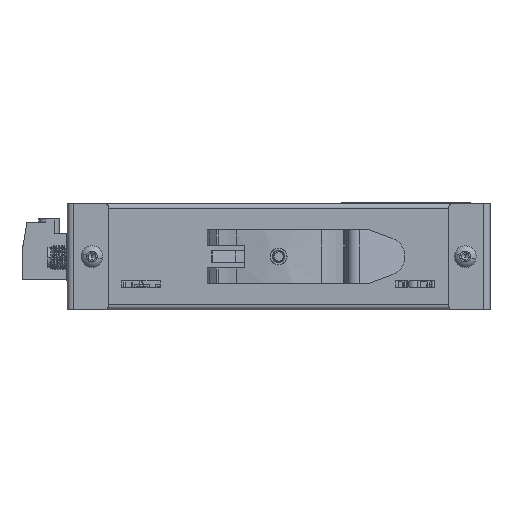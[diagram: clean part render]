
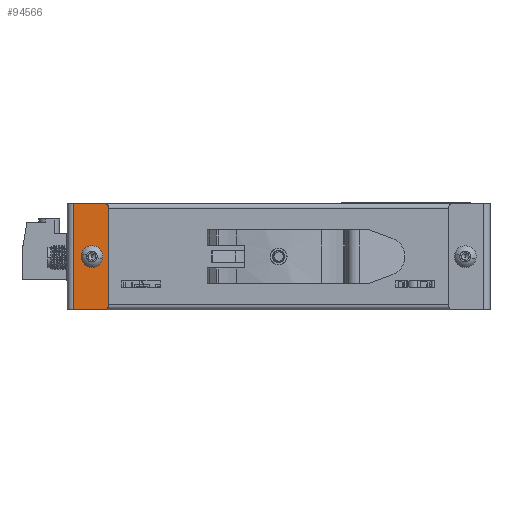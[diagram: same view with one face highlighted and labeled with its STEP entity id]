
A CAD part, left-side view. The second image highlights one B-rep face of the part: STEP entity #94566.
In plain terms, the highlighted planar face has unit normal (-1, 0, 0).
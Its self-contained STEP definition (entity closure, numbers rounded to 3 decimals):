
#1511 = CARTESIAN_POINT ( 'NONE',  ( -47.5, 53.9, 14. ) ) ;
#1550 = DIRECTION ( 'NONE',  ( -1., 0., 0. ) ) ;
#11399 = CARTESIAN_POINT ( 'NONE',  ( -47.5, 49., 1.75 ) ) ;
#11834 = VERTEX_POINT ( 'NONE', #11399 ) ;
#13542 = DIRECTION ( 'NONE',  ( -1., 0., 0. ) ) ;
#15090 = VECTOR ( 'NONE', #56835, 1000. ) ;
#16069 = EDGE_CURVE ( 'NONE', #59664, #119819, #83416, .T. ) ;
#17227 = AXIS2_PLACEMENT_3D ( 'NONE', #98072, #1550, #76534 ) ;
#21399 = CARTESIAN_POINT ( 'NONE',  ( -47.5, 49., -1.75 ) ) ;
#23000 = ORIENTED_EDGE ( 'NONE', *, *, #16069, .T. ) ;
#23485 = LINE ( 'NONE', #77036, #15090 ) ;
#25428 = EDGE_LOOP ( 'NONE', ( #118656, #23000, #77053, #66970, #80749, #62335 ) ) ;
#26117 = DIRECTION ( 'NONE',  ( 0., 0., -1. ) ) ;
#29550 = AXIS2_PLACEMENT_3D ( 'NONE', #86464, #106596, #107528 ) ;
#30083 = VECTOR ( 'NONE', #111758, 1000. ) ;
#32874 = VERTEX_POINT ( 'NONE', #76581 ) ;
#36369 = FACE_BOUND ( 'NONE', #71210, .T. ) ;
#38183 = EDGE_CURVE ( 'NONE', #65464, #96093, #23485, .T. ) ;
#38570 = ORIENTED_EDGE ( 'NONE', *, *, #76656, .F. ) ;
#42850 = CIRCLE ( 'NONE', #137954, 1. ) ;
#42893 = EDGE_CURVE ( 'NONE', #78132, #96093, #42850, .T. ) ;
#44946 = VECTOR ( 'NONE', #120260, 1000. ) ;
#50034 = LINE ( 'NONE', #130061, #44946 ) ;
#55298 = VERTEX_POINT ( 'NONE', #21399 ) ;
#56835 = DIRECTION ( 'NONE',  ( 0., -1., 0. ) ) ;
#58158 = CIRCLE ( 'NONE', #17227, 1.75 ) ;
#59329 = CARTESIAN_POINT ( 'NONE',  ( -47.5, 45.7, 13. ) ) ;
#59664 = VERTEX_POINT ( 'NONE', #87792 ) ;
#62335 = ORIENTED_EDGE ( 'NONE', *, *, #111003, .T. ) ;
#63228 = EDGE_CURVE ( 'NONE', #11834, #55298, #84859, .T. ) ;
#65464 = VERTEX_POINT ( 'NONE', #1511 ) ;
#66970 = ORIENTED_EDGE ( 'NONE', *, *, #42893, .T. ) ;
#71210 = EDGE_LOOP ( 'NONE', ( #90445, #38570 ) ) ;
#72820 = DIRECTION ( 'NONE',  ( 0., 1., 0. ) ) ;
#76534 = DIRECTION ( 'NONE',  ( 0., 0., 1. ) ) ;
#76581 = CARTESIAN_POINT ( 'NONE',  ( -47.5, 53.9, -14. ) ) ;
#76656 = EDGE_CURVE ( 'NONE', #55298, #11834, #58158, .T. ) ;
#77036 = CARTESIAN_POINT ( 'NONE',  ( -47.5, 54.7, 14. ) ) ;
#77053 = ORIENTED_EDGE ( 'NONE', *, *, #100232, .F. ) ;
#78132 = VERTEX_POINT ( 'NONE', #93398 ) ;
#80749 = ORIENTED_EDGE ( 'NONE', *, *, #38183, .F. ) ;
#83416 = CIRCLE ( 'NONE', #111742, 1. ) ;
#84859 = CIRCLE ( 'NONE', #29550, 1.75 ) ;
#86464 = CARTESIAN_POINT ( 'NONE',  ( -47.5, 49., 0. ) ) ;
#87792 = CARTESIAN_POINT ( 'NONE',  ( -47.5, 45.7, -14. ) ) ;
#88418 = CARTESIAN_POINT ( 'NONE',  ( -47.5, 44.7, 14. ) ) ;
#90445 = ORIENTED_EDGE ( 'NONE', *, *, #63228, .F. ) ;
#93362 = FACE_OUTER_BOUND ( 'NONE', #25428, .T. ) ;
#93398 = CARTESIAN_POINT ( 'NONE',  ( -47.5, 44.7, 13. ) ) ;
#94113 = EDGE_CURVE ( 'NONE', #32874, #59664, #50034, .T. ) ;
#94566 = ADVANCED_FACE ( 'NONE', ( #93362, #36369 ), #136937, .F. ) ;
#96093 = VERTEX_POINT ( 'NONE', #136963 ) ;
#98072 = CARTESIAN_POINT ( 'NONE',  ( -47.5, 49., 0. ) ) ;
#100232 = EDGE_CURVE ( 'NONE', #78132, #119819, #138905, .T. ) ;
#100703 = DIRECTION ( 'NONE',  ( 0., 0., -1. ) ) ;
#106596 = DIRECTION ( 'NONE',  ( -1., 0., 0. ) ) ;
#107528 = DIRECTION ( 'NONE',  ( 0., 0., 1. ) ) ;
#111003 = EDGE_CURVE ( 'NONE', #65464, #32874, #113665, .T. ) ;
#111742 = AXIS2_PLACEMENT_3D ( 'NONE', #131085, #13542, #100703 ) ;
#111758 = DIRECTION ( 'NONE',  ( 0., 0., -1. ) ) ;
#113665 = LINE ( 'NONE', #120220, #138798 ) ;
#114908 = DIRECTION ( 'NONE',  ( 1., 0., 0. ) ) ;
#118656 = ORIENTED_EDGE ( 'NONE', *, *, #94113, .T. ) ;
#119819 = VERTEX_POINT ( 'NONE', #131070 ) ;
#120220 = CARTESIAN_POINT ( 'NONE',  ( -47.5, 53.9, 14. ) ) ;
#120260 = DIRECTION ( 'NONE',  ( 0., -1., 0. ) ) ;
#126640 = CARTESIAN_POINT ( 'NONE',  ( -47.5, 54.7, 14. ) ) ;
#130061 = CARTESIAN_POINT ( 'NONE',  ( -47.5, 54.7, -14. ) ) ;
#130477 = DIRECTION ( 'NONE',  ( 0., 0., -1. ) ) ;
#131070 = CARTESIAN_POINT ( 'NONE',  ( -47.5, 44.7, -13. ) ) ;
#131085 = CARTESIAN_POINT ( 'NONE',  ( -47.5, 45.7, -13. ) ) ;
#134233 = AXIS2_PLACEMENT_3D ( 'NONE', #126640, #114908, #72820 ) ;
#134685 = DIRECTION ( 'NONE',  ( -1., 0., 0. ) ) ;
#136937 = PLANE ( 'NONE',  #134233 ) ;
#136963 = CARTESIAN_POINT ( 'NONE',  ( -47.5, 45.7, 14. ) ) ;
#137954 = AXIS2_PLACEMENT_3D ( 'NONE', #59329, #134685, #26117 ) ;
#138798 = VECTOR ( 'NONE', #130477, 1000. ) ;
#138905 = LINE ( 'NONE', #88418, #30083 ) ;
